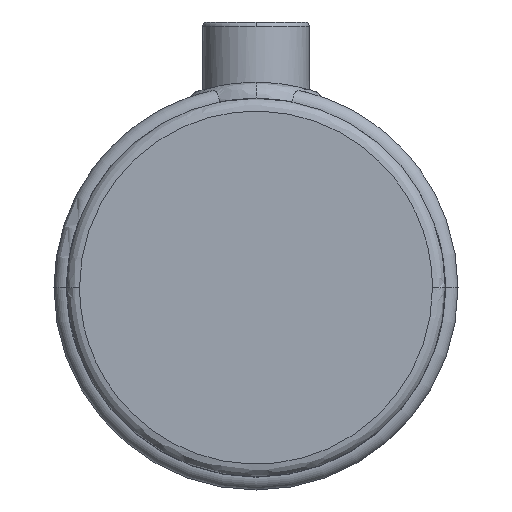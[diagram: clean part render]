
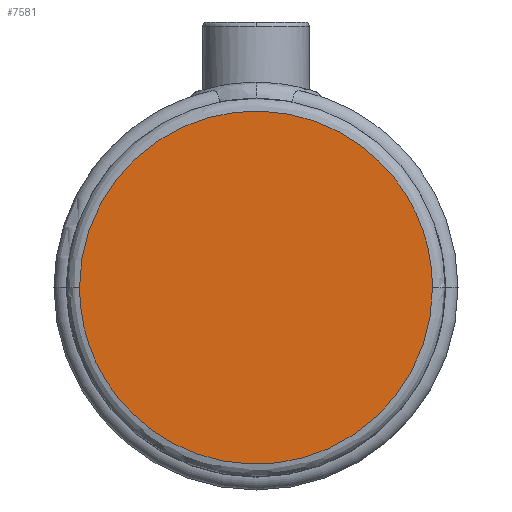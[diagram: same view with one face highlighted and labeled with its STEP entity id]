
A CAD part, top view. The second image highlights one B-rep face of the part: STEP entity #7581.
In plain terms, the highlighted planar face has unit normal (0, 0, 1).
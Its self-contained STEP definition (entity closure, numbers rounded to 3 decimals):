
#31 = CARTESIAN_POINT ( 'NONE',  ( 41.45, -82.9, 50. ) ) ;
#565 = AXIS2_PLACEMENT_3D ( 'NONE', #10216, #1372, #7057 ) ;
#1372 = DIRECTION ( 'NONE',  ( 0., 0., 1. ) ) ;
#1780 = ORIENTED_EDGE ( 'NONE', *, *, #2609, .F. ) ;
#2499 = CARTESIAN_POINT ( 'NONE',  ( 41.45, 0., 50. ) ) ;
#2609 = EDGE_CURVE ( 'NONE', #7044, #4095, #3124, .T. ) ;
#2683 = CARTESIAN_POINT ( 'NONE',  ( -41.45, 82.9, 50. ) ) ;
#2773 = CARTESIAN_POINT ( 'NONE',  ( 41.45, 0., 50. ) ) ;
#3124 =( BOUNDED_CURVE ( )  B_SPLINE_CURVE ( 3, ( #2499, #31, #7285, #8162 ),
 .UNSPECIFIED., .F., .T. ) 
 B_SPLINE_CURVE_WITH_KNOTS ( ( 4, 4 ),
 ( 0.25, 0.75 ),
 .UNSPECIFIED. ) 
 CURVE ( )  GEOMETRIC_REPRESENTATION_ITEM ( )  RATIONAL_B_SPLINE_CURVE ( ( 1., 0.333, 0.333, 1. ) ) 
 REPRESENTATION_ITEM ( '' )  );
#3510 = CARTESIAN_POINT ( 'NONE',  ( 41.45, 0., 50. ) ) ;
#4095 = VERTEX_POINT ( 'NONE', #6501 ) ;
#5322 = EDGE_CURVE ( 'NONE', #4095, #7044, #5646, .T. ) ;
#5646 =( BOUNDED_CURVE ( )  B_SPLINE_CURVE ( 3, ( #7537, #2683, #8335, #3510 ),
 .UNSPECIFIED., .F., .T. ) 
 B_SPLINE_CURVE_WITH_KNOTS ( ( 4, 4 ),
 ( 0.75, 1.25 ),
 .UNSPECIFIED. ) 
 CURVE ( )  GEOMETRIC_REPRESENTATION_ITEM ( )  RATIONAL_B_SPLINE_CURVE ( ( 1., 0.333, 0.333, 1. ) ) 
 REPRESENTATION_ITEM ( '' )  );
#5760 = FACE_OUTER_BOUND ( 'NONE', #8035, .T. ) ;
#6204 = PLANE ( 'NONE',  #565 ) ;
#6501 = CARTESIAN_POINT ( 'NONE',  ( -41.45, 0., 50. ) ) ;
#7044 = VERTEX_POINT ( 'NONE', #2773 ) ;
#7057 = DIRECTION ( 'NONE',  ( 0., -1., 0. ) ) ;
#7285 = CARTESIAN_POINT ( 'NONE',  ( -41.45, -82.9, 50. ) ) ;
#7537 = CARTESIAN_POINT ( 'NONE',  ( -41.45, 0., 50. ) ) ;
#7581 = ADVANCED_FACE ( 'NONE', ( #5760 ), #6204, .T. ) ;
#8035 = EDGE_LOOP ( 'NONE', ( #1780, #10382 ) ) ;
#8162 = CARTESIAN_POINT ( 'NONE',  ( -41.45, 0., 50. ) ) ;
#8335 = CARTESIAN_POINT ( 'NONE',  ( 41.45, 82.9, 50. ) ) ;
#10216 = CARTESIAN_POINT ( 'NONE',  ( 0., 22.225, 50. ) ) ;
#10382 = ORIENTED_EDGE ( 'NONE', *, *, #5322, .F. ) ;
